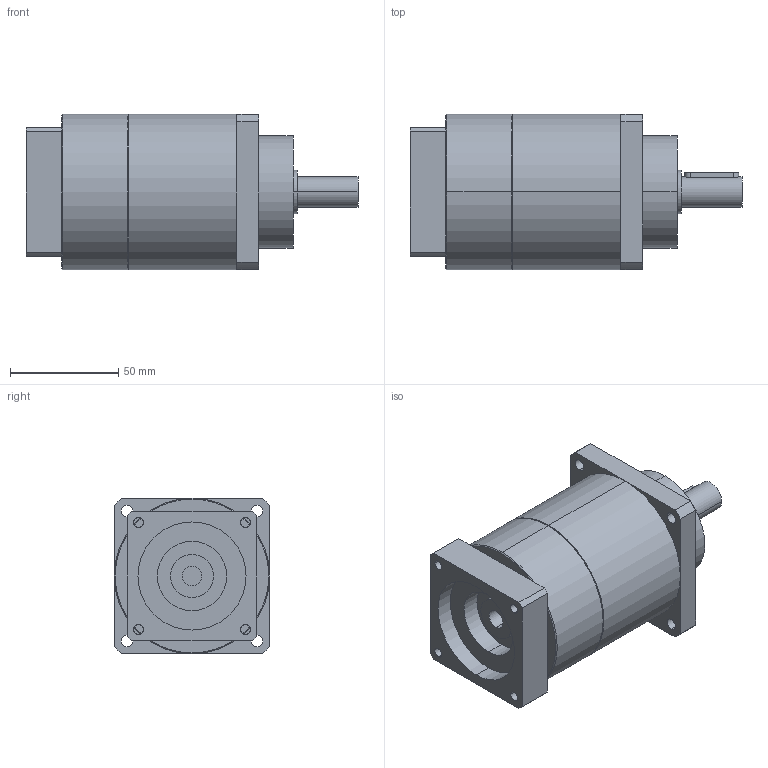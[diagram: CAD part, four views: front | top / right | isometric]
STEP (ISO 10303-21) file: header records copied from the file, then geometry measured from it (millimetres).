
FILE_DESCRIPTION(('CoCreate Modeling STEP Export'),'2;1');
FILE_NAME('GPT75_ig-9-12-16-20-25-28-35-40-50-70-100_14_B5T_9_P17.stp','2014-08-27T13:44:03',(''),(''),'CoCreate Modeling STEP processor for AP214 (Solid Model)','CoCreate Modeling 16.00C 25-Feb-2009 (C) Parametric Technology GmbH','');
FILE_SCHEMA(('AUTOMOTIVE_DESIGN { 1 0 10303 214 1 1 1 1 }'));
Length unit declared in the file: millimetre
Products named in the file (2): GPT75_ig-9-12-16-20-25-28-35-40-50-70-100_14_B5T_9_P17
Assembly tree (1 placements, depth 2):
  GPT75_ig-9-12-16-20-25-28-35-40-50-70-100_14_B5T_9_P17
    GPT75_ig-9-12-16-20-25-28-35-40-50-70-100_14_B5T_9_P17
Bounding box: 153.5 x 72 x 72 mm (x, y, z)
Volume: 454061.8 mm3; surface area: 44723.5 mm2
Topology: 1 solids, 1 shells, 88 faces, 226 edges, 145 vertices
Faces by surface type: cylinder 46, plane 38, cone 4
Entity records: 2676 total; most frequent: CARTESIAN_POINT 744, ORIENTED_EDGE 452, DIRECTION 334, EDGE_CURVE 226, VERTEX_POINT 145, AXIS2_PLACEMENT_3D 123, EDGE_LOOP 109, VECTOR 88
